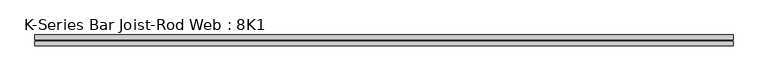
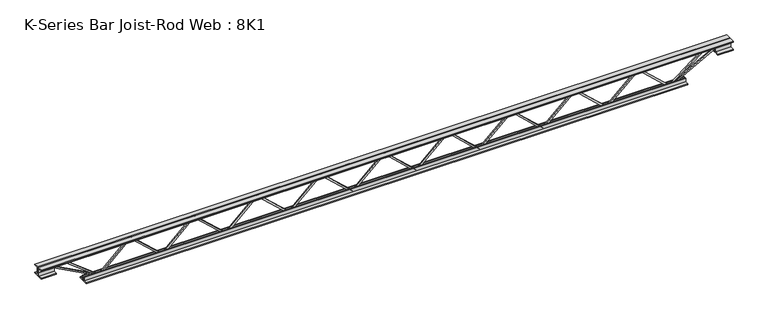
"""IFC4 building model written with IfcOpenShell, lengths in millimetres: beam geometry, K-Series Bar Joist-Rod Web : 8K1."""

from ifc_helpers import new_model, si_unit, frame, origin, place, context, project, spatial, polyline, outline, extrude, source, transform, mapped, element, save


def k_series_bar_joist_rod_web_8k1_1f0329fa(model_context):
    return source(origin(), model_context, "Body", "SweptSolid", [
        extrude(outline(polyline([(-90.4875, 1067.8380982), (-100.0125, 1067.8380982), (-100.0125, 1072.8695868), (90.4875, 1280.0872064), (90.4875, 1282.7242294), (-100.0125, 1489.941849), (-100.0125, 1494.9733375), (-90.4875, 1494.9733375), (-90.4875, 1493.654826), (100.0125, 1286.4372064), (100.0125, 1276.3742294), (-90.4875, 1069.1566097), (-90.4875, 1067.8380982)])), frame((0.0, -4.7625, 0.0), z_axis=(0.0, 1.0, 0.0), x_axis=(0.0, 0.0, 1.0)), (0.0, 0.0, 1.0), 9.525),
        extrude(outline(polyline([(-90.4875, 640.7028589), (-100.0125, 640.7028589), (-100.0125, 645.7343475), (90.4875, 852.9519671), (90.4875, 855.5889901), (-100.0125, 1062.8066097), (-100.0125, 1067.8380982), (-90.4875, 1067.8380982), (-90.4875, 1066.5195868), (100.0125, 859.3019671), (100.0125, 849.2389901), (-90.4875, 642.0213704), (-90.4875, 640.7028589)])), frame((0.0, -4.7625, 0.0), z_axis=(0.0, 1.0, 0.0), x_axis=(0.0, 0.0, 1.0)), (0.0, 0.0, 1.0), 9.525),
        extrude(outline(polyline([(-90.4875, 213.5676196), (-100.0125, 213.5676196), (-100.0125, 218.5991082), (90.4875, 425.8167278), (90.4875, 428.4537508), (-100.0125, 635.6713704), (-100.0125, 640.7028589), (-90.4875, 640.7028589), (-90.4875, 639.3843475), (100.0125, 432.1667278), (100.0125, 422.1037508), (-90.4875, 214.8861311), (-90.4875, 213.5676196)])), frame((0.0, -4.7625, 0.0), z_axis=(0.0, 1.0, 0.0), x_axis=(0.0, 0.0, 1.0)), (0.0, 0.0, 1.0), 9.525),
        extrude(outline(polyline([(-90.4875, -213.5676196), (-100.0125, -213.5676196), (-100.0125, -208.5361311), (90.4875, -1.3185115), (90.4875, 1.3185115), (-100.0125, 208.5361311), (-100.0125, 213.5676196), (-90.4875, 213.5676196), (-90.4875, 212.2491082), (100.0125, 5.0314885), (100.0125, -5.0314885), (-90.4875, -212.2491082), (-90.4875, -213.5676196)])), frame((0.0, -4.7625, 0.0), z_axis=(0.0, 1.0, 0.0), x_axis=(0.0, 0.0, 1.0)), (0.0, 0.0, 1.0), 9.525),
        extrude(outline(polyline([(-90.4875, -640.7028589), (-100.0125, -640.7028589), (-100.0125, -635.6713704), (90.4875, -428.4537508), (90.4875, -425.8167278), (-100.0125, -218.5991082), (-100.0125, -213.5676196), (-90.4875, -213.5676196), (-90.4875, -214.8861311), (100.0125, -422.1037508), (100.0125, -432.1667278), (-90.4875, -639.3843475), (-90.4875, -640.7028589)])), frame((0.0, -4.7625, 0.0), z_axis=(0.0, 1.0, 0.0), x_axis=(0.0, 0.0, 1.0)), (0.0, 0.0, 1.0), 9.525),
        extrude(outline(polyline([(-90.4875, -1067.8380982), (-100.0125, -1067.8380982), (-100.0125, -1062.8066097), (90.4875, -855.5889901), (90.4875, -852.9519671), (-100.0125, -645.7343475), (-100.0125, -640.7028589), (-90.4875, -640.7028589), (-90.4875, -642.0213704), (100.0125, -849.2389901), (100.0125, -859.3019671), (-90.4875, -1066.5195868), (-90.4875, -1067.8380982)])), frame((0.0, -4.7625, 0.0), z_axis=(0.0, 1.0, 0.0), x_axis=(0.0, 0.0, 1.0)), (0.0, 0.0, 1.0), 9.525),
        extrude(outline(polyline([(-90.4875, -1494.9733375), (-100.0125, -1494.9733375), (-100.0125, -1489.941849), (90.4875, -1282.7242294), (90.4875, -1280.0872064), (-100.0125, -1072.8695868), (-100.0125, -1067.8380982), (-90.4875, -1067.8380982), (-90.4875, -1069.1566097), (100.0125, -1276.3742294), (100.0125, -1286.4372064), (-90.4875, -1493.654826), (-90.4875, -1494.9733375)])), frame((0.0, -4.7625, 0.0), z_axis=(0.0, 1.0, 0.0), x_axis=(0.0, 0.0, 1.0)), (0.0, 0.0, 1.0), 9.525),
        extrude(outline(polyline([(-90.4875, 1494.9733375), (-100.0125, 1494.9733375), (-100.0125, 1500.004826), (90.4875, 1707.2224457), (90.4875, 1709.8594686), (-100.0125, 1917.0770883), (-100.0125, 1922.1085768), (-90.4875, 1922.1085768), (-90.4875, 1920.7900653), (100.0125, 1713.5724457), (100.0125, 1703.5094686), (-90.4875, 1496.291849), (-90.4875, 1494.9733375)])), frame((0.0, -4.7625, 0.0), z_axis=(0.0, 1.0, 0.0), x_axis=(0.0, 0.0, 1.0)), (0.0, 0.0, 1.0), 9.525),
        extrude(outline(polyline([(-90.4875, -1922.1085768), (-100.0125, -1922.1085768), (-100.0125, -1917.0770883), (90.4875, -1709.8594686), (90.4875, -1707.2224457), (-100.0125, -1500.004826), (-100.0125, -1494.9733375), (-90.4875, -1494.9733375), (-90.4875, -1496.291849), (100.0125, -1703.5094686), (100.0125, -1713.5724457), (-90.4875, -1920.7900653), (-90.4875, -1922.1085768)])), frame((0.0, -4.7625, 0.0), z_axis=(0.0, 1.0, 0.0), x_axis=(0.0, 0.0, 1.0)), (0.0, 0.0, 1.0), 9.525),
        extrude(outline(polyline([(4.7625, 101.6), (36.5125, 101.6), (36.5125, 95.25), (11.1125, 95.25), (11.1125, 69.85), (4.7625, 69.85), (4.7625, 101.6)])), frame((-2328.5085768, 0.0, 0.0), z_axis=(1.0, 0.0, 0.0), x_axis=(0.0, 1.0, 0.0)), (0.0, 0.0, 1.0), 4657.0171536),
        extrude(outline(polyline([(-4.7625, 101.6), (-4.7625, 69.85), (-11.1125, 69.85), (-11.1125, 95.25), (-36.5125, 95.25), (-36.5125, 101.6), (-4.7625, 101.6)])), frame((-2328.5085768, 0.0, 0.0), z_axis=(1.0, 0.0, 0.0), x_axis=(0.0, 1.0, 0.0)), (0.0, 0.0, 1.0), 4657.0171536),
        extrude(outline(polyline([(-4.7625, 38.1), (-36.5125, 38.1), (-36.5125, 44.45), (-11.1125, 44.45), (-11.1125, 69.85), (-4.7625, 69.85), (-4.7625, 38.1)])), frame((-2328.5085768, 0.0, 0.0), z_axis=(1.0, 0.0, 0.0), x_axis=(0.0, 1.0, 0.0)), (0.0, 0.0, 1.0), 101.6),
        extrude(outline(polyline([(36.5125, 38.1), (4.7625, 38.1), (4.7625, 69.85), (11.1125, 69.85), (11.1125, 44.45), (36.5125, 44.45), (36.5125, 38.1)])), frame((-2328.5085768, 0.0, 0.0), z_axis=(1.0, 0.0, 0.0), x_axis=(0.0, 1.0, 0.0)), (0.0, 0.0, 1.0), 101.6),
        extrude(outline(polyline([(4.7625, 38.1), (4.7625, 69.85), (11.1125, 69.85), (11.1125, 44.45), (36.5125, 44.45), (36.5125, 38.1), (4.7625, 38.1)])), frame((2226.9085768, 0.0, 0.0), z_axis=(1.0, 0.0, 0.0), x_axis=(0.0, 1.0, 0.0)), (0.0, 0.0, 1.0), 101.6),
        extrude(outline(polyline([(-4.7625, 38.1), (-36.5125, 38.1), (-36.5125, 44.45), (-11.1125, 44.45), (-11.1125, 69.85), (-4.7625, 69.85), (-4.7625, 38.1)])), frame((2226.9085768, 0.0, 0.0), z_axis=(1.0, 0.0, 0.0), x_axis=(0.0, 1.0, 0.0)), (0.0, 0.0, 1.0), 101.6),
        extrude(outline(polyline([(4.7625, -101.6), (4.7625, -69.85), (11.1125, -69.85), (11.1125, -95.25), (36.5125, -95.25), (36.5125, -101.6), (4.7625, -101.6)])), frame((-2023.7085768, 0.0, 0.0), z_axis=(1.0, 0.0, 0.0), x_axis=(0.0, 1.0, 0.0)), (0.0, 0.0, 1.0), 4047.4171536),
        extrude(outline(polyline([(-4.7625, -101.6), (-36.5125, -101.6), (-36.5125, -95.25), (-11.1125, -95.25), (-11.1125, -69.85), (-4.7625, -69.85), (-4.7625, -101.6)])), frame((-2023.7085768, 0.0, 0.0), z_axis=(1.0, 0.0, 0.0), x_axis=(0.0, 1.0, 0.0)), (0.0, 0.0, 1.0), 4047.4171536),
        extrude(outline(polyline([(0.0, -9.525), (0.0, 0.0), (346.6425392, 0.0), (346.6425392, -9.525), (0.0, -9.525)])), frame((-2229.1768753, 4.7625, 65.662372), z_axis=(0.47628314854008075, 0.0, 0.879291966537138), x_axis=(0.879291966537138, 0.0, -0.47628314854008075)), (0.0, 0.0, 1.0), 9.525),
        extrude(outline(polyline([(0.0, -9.525), (0.0, 0.0), (269.9428424, 0.0), (269.9428424, -9.525), (0.0, -9.525)])), frame((-2138.5889936, 4.7625, 66.0821068), z_axis=(0.6116109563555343, 0.0, 0.7911586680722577), x_axis=(0.7911586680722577, 0.0, -0.6116109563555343)), (0.0, 0.0, 1.0), 9.525),
        extrude(outline(polyline([(0.0, -9.525), (0.0, 0.0), (346.6425392, 0.0), (346.6425392, -9.525), (0.0, -9.525)])), frame((2229.1768753, -4.7625, 65.662372), z_axis=(-0.4762831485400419, 0.0, 0.8792919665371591), x_axis=(-0.8792919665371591, 0.0, -0.4762831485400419)), (0.0, 0.0, 1.0), 9.525),
        extrude(outline(polyline([(0.0, -9.525), (0.0, 0.0), (269.9428424, 0.0), (269.9428424, -9.525), (0.0, -9.525)])), frame((2138.5889936, -4.7625, 66.0821068), z_axis=(-0.6116109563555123, 0.0, 0.7911586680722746), x_axis=(-0.7911586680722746, 0.0, -0.6116109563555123)), (0.0, 0.0, 1.0), 9.525),
    ])


if __name__ == "__main__":
    model = new_model("IFC4")
    model_context = context("Model", 3, world=origin())
    ifc_project = project(units=[si_unit("LENGTHUNIT", "METRE", prefix="MILLI")], contexts=[model_context])
    site = spatial("IfcSite", under=ifc_project)
    building = spatial("IfcBuilding", under=site)
    placement = place(None, origin())
    k_series_bar_joist_rod_web_8k1_shape = k_series_bar_joist_rod_web_8k1_1f0329fa(model_context)
    element("IfcBeam", 1, ObjectType="K-Series Bar Joist-Rod Web : 8K1", at=placement, inside=building, context=model_context, shape_type="MappedRepresentation", body=[
        mapped(k_series_bar_joist_rod_web_8k1_shape, transform((0.0, 0.0, 0.0), x_axis=(1.0, 0.0, 0.0), y_axis=(0.0, 1.0, 0.0), z_axis=(0.0, 0.0, 1.0))),
    ])
    save(model, "model.ifc")
